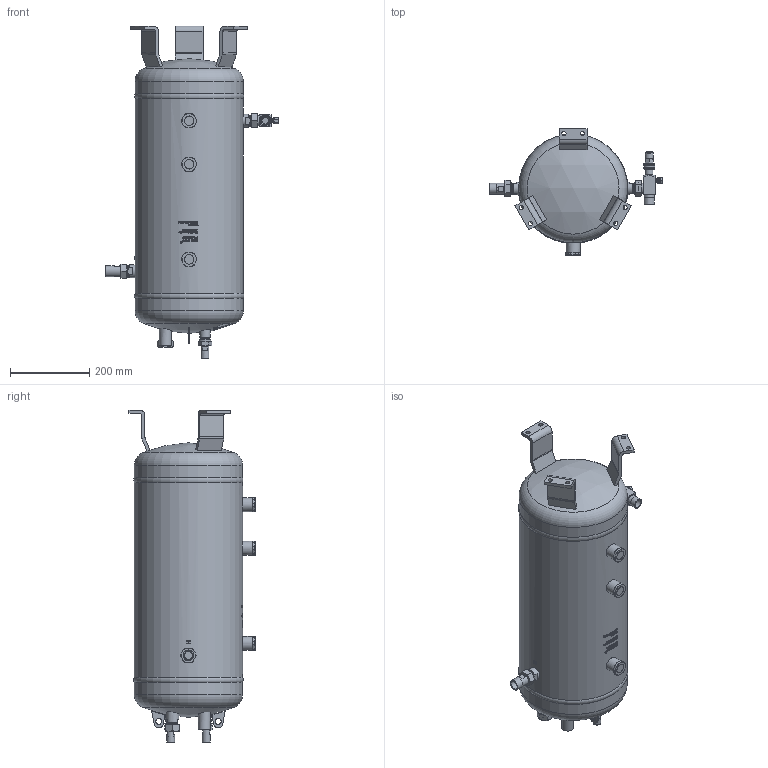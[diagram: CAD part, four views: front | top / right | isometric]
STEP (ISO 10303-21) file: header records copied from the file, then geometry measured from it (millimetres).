
FILE_DESCRIPTION(/* description */ (''),/* implementation_level */ '2;1');
FILE_NAME(/* name */ 'P:\SGS\SGS-32W-CDM\SGS-32W-CDM.stp',/* time_stamp */ '2017-08-17T10:37:12+02:00',/* author */ ('goerner'),/* organization */ (''),/* preprocessor_version */ 'ST-DEVELOPER v16.1',/* originating_system */ 'Autodesk Inventor 2016',/* authorisation */ '');
FILE_SCHEMA (('AUTOMOTIVE_DESIGN { 1 0 10303 214 3 1 1 }'));
Length unit declared in the file: millimetre
Products named in the file (5): SGS-32W-CDM_Rev.1_AG-Kunde; RAV-1_1_4-22-CDM_AG-Kunde; LD-1_1_4; BK_1_1_4; SGS-32W-CDM_Rev.1_AG-Kunde_1
Assembly tree (4 placements, depth 2):
  SGS-32W-CDM_Rev.1_AG-Kunde_1
    SGS-32W-CDM_Rev.1_AG-Kunde
    RAV-1_1_4-22-CDM_AG-Kunde
    LD-1_1_4
    BK_1_1_4
Bounding box: 436.35 x 318 x 837.68 mm (x, y, z)
Volume: 38974074 mm3; surface area: 805753.5 mm2
Topology: 9 solids, 14 shells, 2854 faces, 7610 edges, 5032 vertices
Faces by surface type: plane 1365, bspline 933, cylinder 307, cone 149, sphere 91, torus 9
Full cylindrical faces by diameter (mm): 4 x1, 5 x1, 6.5 x1, 9 x2, 9.4 x1, 10.1 x1, 10.5 x6, 10.72 x1, 11 x1, 14 x1, 15 x2, 16.2 x2, 17 x2, 18.631 x1, 19 x4, 20 x1, 20.1 x2, 20.131 x1, 20.5 x2, 22 x2, 22.1 x2, 22.22 x2, 22.3 x1, 22.4 x1, 23 x1, 23.2 x1, 24 x3, 24.4 x1, 24.5 x2, 25 x1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
Entity records: 107298 total; most frequent: CARTESIAN_POINT 41309, ORIENTED_EDGE 14882, DIRECTION 11360, EDGE_CURVE 7440, VERTEX_POINT 4991, AXIS2_PLACEMENT_3D 4199, EDGE_LOOP 3251, LINE 2962
